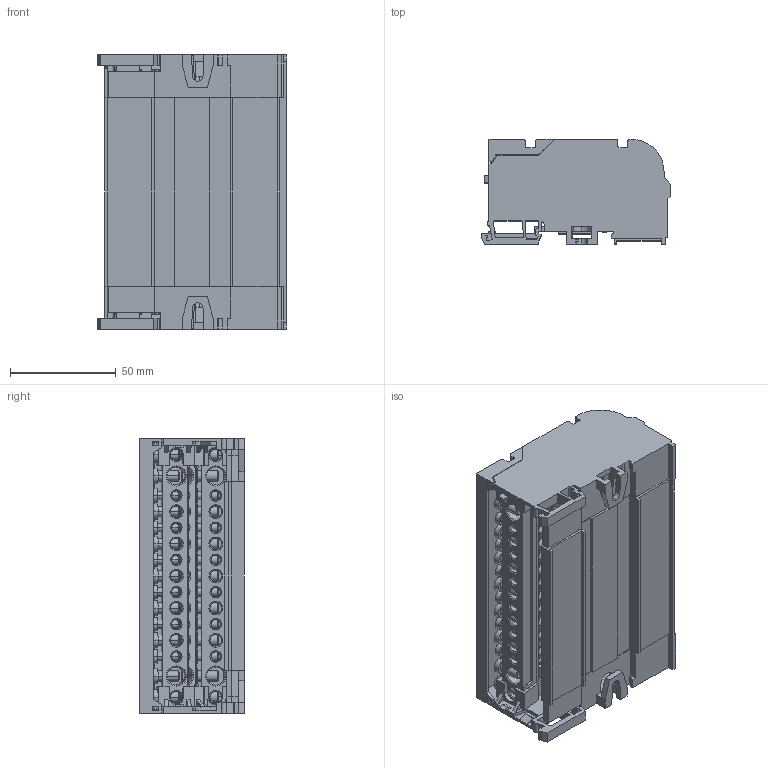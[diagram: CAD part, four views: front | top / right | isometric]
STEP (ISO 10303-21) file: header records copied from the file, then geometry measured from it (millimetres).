
FILE_DESCRIPTION (( 'STEP AP214' ), '1' );
FILE_NAME ('BDB415.STEP', '2018-02-22T14:36:52', ( '' ), ( '' ), 'SwSTEP 2.0', 'SolidWorks 2017', '' );
FILE_SCHEMA (( 'AUTOMOTIVE_DESIGN' ));
Length unit declared in the file: millimetre
Products named in the file (1): BDB415
Bounding box: 89.2 x 49.6 x 129.5 mm (x, y, z)
Volume: 124152.8 mm3; surface area: 149588 mm2
Topology: 72 solids, 72 shells, 3036 faces, 7974 edges, 5116 vertices
Faces by surface type: plane 1909, cylinder 616, cone 480, bspline 31
Entity records: 123341 total; most frequent: CARTESIAN_POINT 21110, ORIENTED_EDGE 15948, DIRECTION 15654, EDGE_CURVE 7974, VECTOR 5942, LINE 5942, VERTEX_POINT 5116, AXIS2_PLACEMENT_3D 4856
